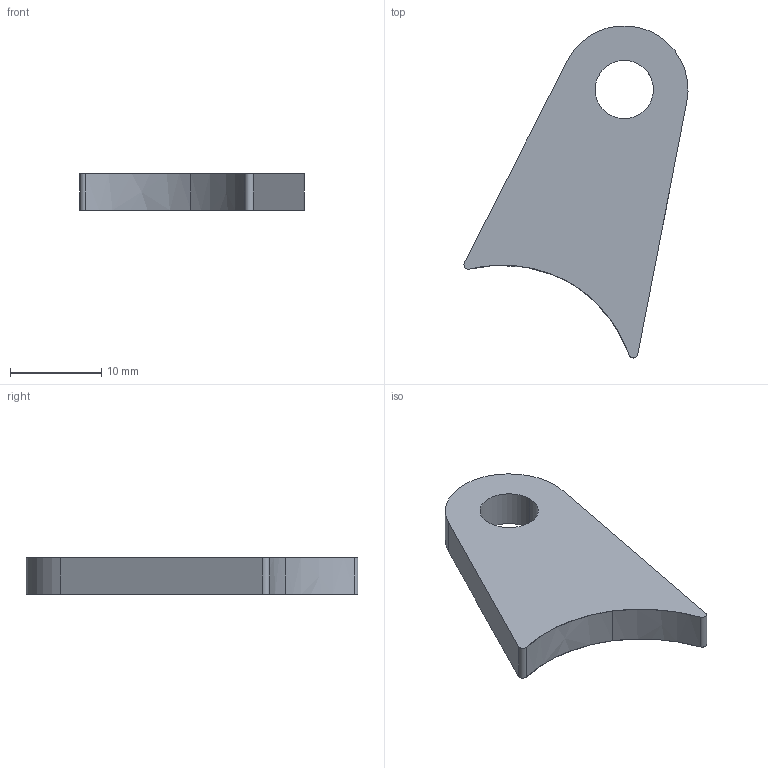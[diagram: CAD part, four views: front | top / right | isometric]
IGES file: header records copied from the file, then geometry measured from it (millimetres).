
Start section: START RECORD GO HERE.
Global section: file name: 20M_FU_RD.igs; native system: IBM CATIA IGES - CATIA Version 5 Release 19 ; preprocessor: CATIA Version 5 Release 19 ; author: alexb; organization: LAPTOP-PR6NE7IP; date: 20191216.212952; units: millimetre
Bounding box: 24.59 x 36.43 x 4 mm (x, y, z)
Surface area: 1368.9 mm2 (no closed solid volume)
Topology: 0 solids, 0 shells, 12 faces, 60 edges, 64 vertices
Faces by surface type: revolution 6, plane 4, extrusion 2
